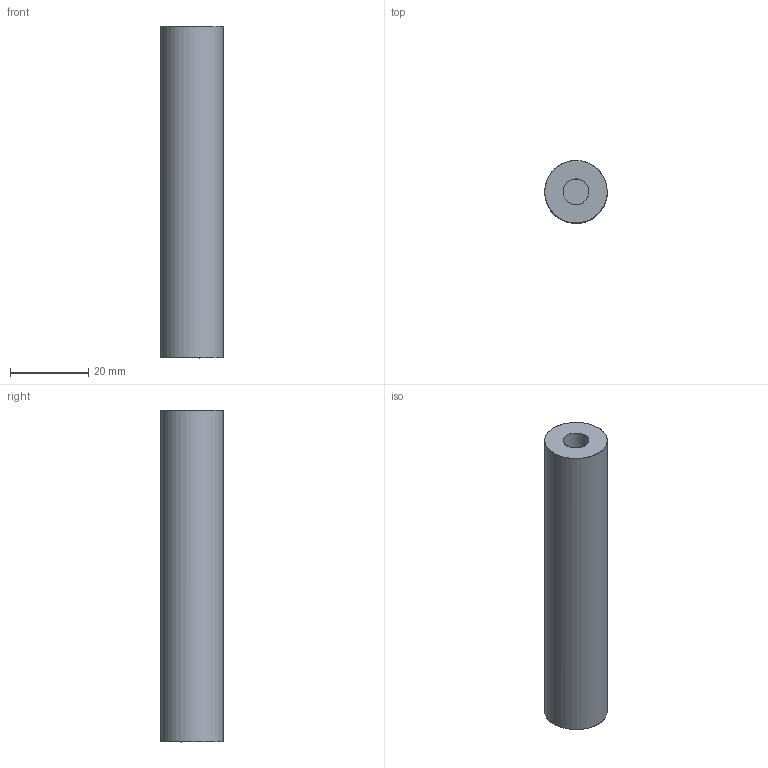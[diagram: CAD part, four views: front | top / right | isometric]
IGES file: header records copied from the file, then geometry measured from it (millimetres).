
Start section: File produced by SOLID-CONCEP (Trim Surfaces - Entity 144)
Global section: file name: 46.igs; native system: SOLID-CONCEPT V.5.xx; preprocessor: SOLID-CONCEPT-IGES-OUT v2.00; date: 100220.122256; units: millimetre
Bounding box: 15.99 x 15.99 x 85 mm (x, y, z)
Surface area: 5918.8 mm2 (no closed solid volume)
Topology: 0 solids, 0 shells, 7 faces, 40 edges, 34 vertices
Faces by surface type: bspline 4, revolution 3
